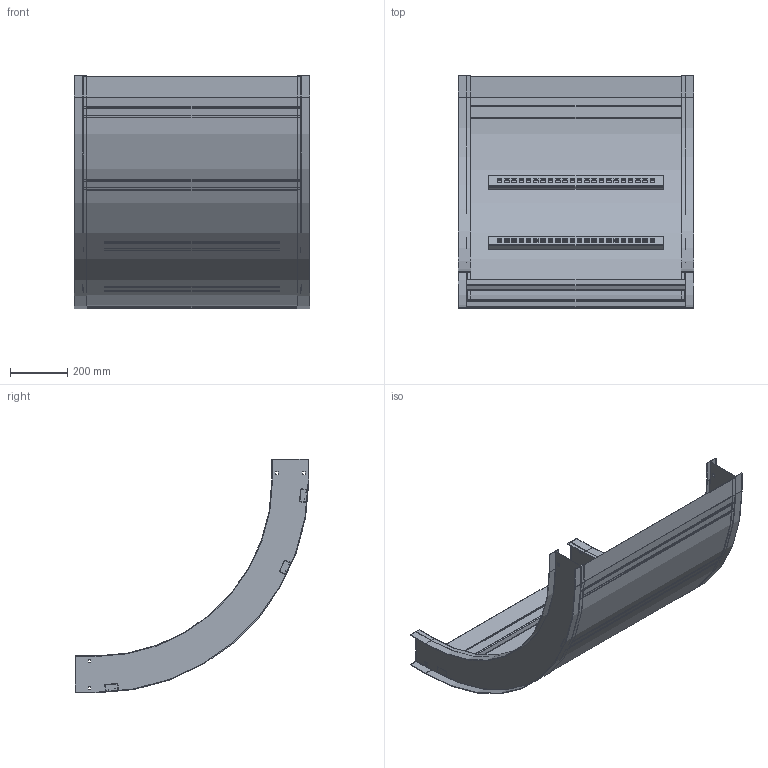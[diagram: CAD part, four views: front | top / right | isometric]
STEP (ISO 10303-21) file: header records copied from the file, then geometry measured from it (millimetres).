
FILE_DESCRIPTION((''),'2;1');
FILE_NAME('AHF530SVI9024_ASM','2010-01-28T',('erouzier'),(''),'PRO/ENGINEER BY PARAMETRIC TECHNOLOGY CORPORATION, 2008510','PRO/ENGINEER BY PARAMETRIC TECHNOLOGY CORPORATION, 2008510','');
FILE_SCHEMA(('CONFIG_CONTROL_DESIGN'));
Length unit declared in the file: inch
Products named in the file (5): CDS001658_5_90_24; CDS002159L30; CDS002159L24-P; CDS014130_90_24_30; AHF530SVI9024_ASM
Assembly tree (8 placements, depth 2):
  AHF530SVI9024_ASM
    CDS001658_5_90_24  x2
    CDS002159L30  x3
    CDS002159L24-P  x2
    CDS014130_90_24_30
Bounding box: 823.21 x 814.96 x 814.83 mm (x, y, z)
Volume: 2556178.8 mm3; surface area: 3835361.1 mm2
Topology: 8 solids, 8 shells, 600 faces, 1744 edges, 1160 vertices
Faces by surface type: plane 355, cylinder 245
Entity records: 9895 total; most frequent: CARTESIAN_POINT 1709, DIRECTION 1690, ORIENTED_EDGE 1688, EDGE_CURVE 844, VECTOR 608, LINE 608, VERTEX_POINT 560, AXIS2_PLACEMENT_3D 541
